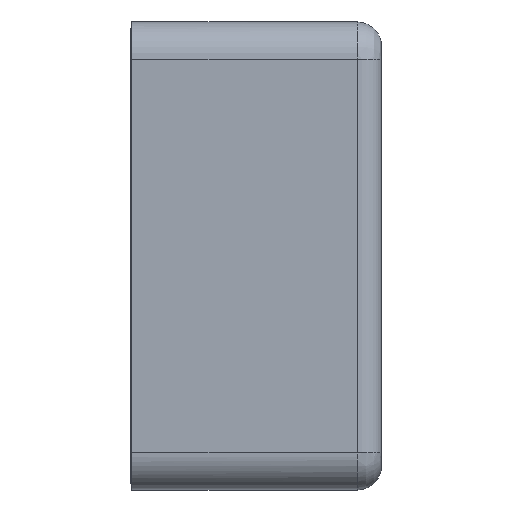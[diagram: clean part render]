
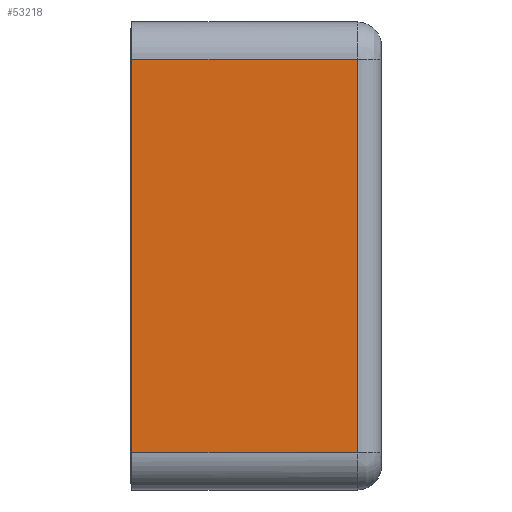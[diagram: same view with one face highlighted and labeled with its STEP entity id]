
A CAD part, left-side view. The second image highlights one B-rep face of the part: STEP entity #53218.
In plain terms, the highlighted planar face has unit normal (-1, 0, 0).
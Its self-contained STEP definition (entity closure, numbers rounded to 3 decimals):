
#168 = VERTEX_POINT ( 'NONE', #39455 ) ;
#3367 = LINE ( 'NONE', #109186, #42618 ) ;
#3464 = VECTOR ( 'NONE', #12228, 39.37 ) ;
#7602 = EDGE_CURVE ( 'NONE', #168, #113327, #45488, .T. ) ;
#9463 = ORIENTED_EDGE ( 'NONE', *, *, #35606, .F. ) ;
#10371 = DIRECTION ( 'NONE',  ( 0., 1., 0. ) ) ;
#11446 = CARTESIAN_POINT ( 'NONE',  ( -15.261, -9.25, 8.213 ) ) ;
#12228 = DIRECTION ( 'NONE',  ( 0., 0., 1. ) ) ;
#14368 = ORIENTED_EDGE ( 'NONE', *, *, #48696, .T. ) ;
#14901 = CARTESIAN_POINT ( 'NONE',  ( -15.261, 0.065, 8.213 ) ) ;
#18398 = VECTOR ( 'NONE', #44672, 39.37 ) ;
#20487 = CARTESIAN_POINT ( 'NONE',  ( -15.261, -9.25, -8.213 ) ) ;
#32980 = DIRECTION ( 'NONE',  ( 0., 0., 1. ) ) ;
#35606 = EDGE_CURVE ( 'NONE', #98100, #168, #84860, .T. ) ;
#35668 = CARTESIAN_POINT ( 'NONE',  ( -15.261, -9.25, 8.213 ) ) ;
#37465 = EDGE_CURVE ( 'NONE', #53163, #113327, #3367, .T. ) ;
#39455 = CARTESIAN_POINT ( 'NONE',  ( -15.261, 0.165, -8.213 ) ) ;
#42618 = VECTOR ( 'NONE', #10371, 39.37 ) ;
#44672 = DIRECTION ( 'NONE',  ( 0., 0., 1. ) ) ;
#45488 = LINE ( 'NONE', #101594, #3464 ) ;
#48696 = EDGE_CURVE ( 'NONE', #98100, #53163, #66123, .T. ) ;
#49848 = ORIENTED_EDGE ( 'NONE', *, *, #7602, .F. ) ;
#50201 = FACE_OUTER_BOUND ( 'NONE', #62296, .T. ) ;
#53163 = VERTEX_POINT ( 'NONE', #11446 ) ;
#53218 = ADVANCED_FACE ( 'NONE', ( #50201 ), #77599, .T. ) ;
#62296 = EDGE_LOOP ( 'NONE', ( #9463, #14368, #99971, #49848 ) ) ;
#62878 = DIRECTION ( 'NONE',  ( 0., 1., 0. ) ) ;
#63264 = CARTESIAN_POINT ( 'NONE',  ( -15.261, 0.065, -8.213 ) ) ;
#64050 = CARTESIAN_POINT ( 'NONE',  ( -15.261, 0.165, 8.213 ) ) ;
#66123 = LINE ( 'NONE', #35668, #18398 ) ;
#77599 = PLANE ( 'NONE',  #89318 ) ;
#84860 = LINE ( 'NONE', #63264, #87668 ) ;
#86625 = DIRECTION ( 'NONE',  ( -1., 0., 0. ) ) ;
#87668 = VECTOR ( 'NONE', #62878, 39.37 ) ;
#89318 = AXIS2_PLACEMENT_3D ( 'NONE', #14901, #86625, #32980 ) ;
#98100 = VERTEX_POINT ( 'NONE', #20487 ) ;
#99971 = ORIENTED_EDGE ( 'NONE', *, *, #37465, .T. ) ;
#101594 = CARTESIAN_POINT ( 'NONE',  ( -15.261, 0.165, 8.213 ) ) ;
#109186 = CARTESIAN_POINT ( 'NONE',  ( -15.261, 0.065, 8.213 ) ) ;
#113327 = VERTEX_POINT ( 'NONE', #64050 ) ;
